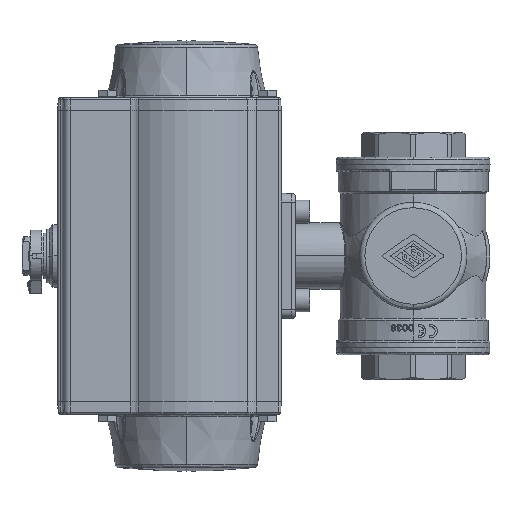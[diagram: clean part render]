
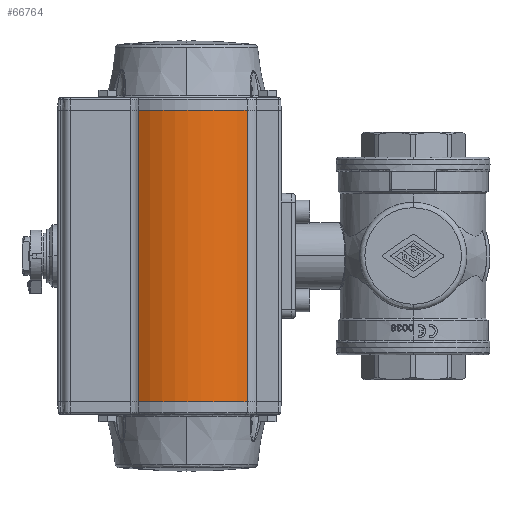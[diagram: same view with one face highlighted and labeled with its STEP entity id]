
A CAD part, left-side view. The second image highlights one B-rep face of the part: STEP entity #66764.
In plain terms, the highlighted cylindrical face has radius 47.5 mm (diameter 95 mm), a partial arc.
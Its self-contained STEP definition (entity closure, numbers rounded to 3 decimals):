
#328 = CARTESIAN_POINT ( 'NONE',  ( -39.046, 153.903, -81.5 ) ) ;
#7567 = CYLINDRICAL_SURFACE ( 'NONE', #104923, 47.5 ) ;
#16189 = CARTESIAN_POINT ( 'NONE',  ( -33.119, 92.805, 0. ) ) ;
#19315 = LINE ( 'NONE', #45328, #33996 ) ;
#24831 = DIRECTION ( 'NONE',  ( 0., 0., 1. ) ) ;
#25376 = DIRECTION ( 'NONE',  ( 1., 0., 0. ) ) ;
#26729 = DIRECTION ( 'NONE',  ( 0., 0., -1. ) ) ;
#29430 = CIRCLE ( 'NONE', #133840, 47.5 ) ;
#29638 = AXIS2_PLACEMENT_3D ( 'NONE', #106712, #44533, #117266 ) ;
#33370 = CARTESIAN_POINT ( 'NONE',  ( -33.119, 92.805, 81.5 ) ) ;
#33996 = VECTOR ( 'NONE', #24831, 1000. ) ;
#40792 = VERTEX_POINT ( 'NONE', #62175 ) ;
#41325 = DIRECTION ( 'NONE',  ( 0., 0., -1. ) ) ;
#44533 = DIRECTION ( 'NONE',  ( 0., 0., -1. ) ) ;
#45081 = FACE_OUTER_BOUND ( 'NONE', #54483, .T. ) ;
#45328 = CARTESIAN_POINT ( 'NONE',  ( -39.046, 153.903, 0. ) ) ;
#46431 = VECTOR ( 'NONE', #26729, 1000. ) ;
#48328 = EDGE_CURVE ( 'NONE', #40792, #110522, #29430, .T. ) ;
#49013 = ORIENTED_EDGE ( 'NONE', *, *, #68353, .F. ) ;
#50062 = CIRCLE ( 'NONE', #29638, 47.5 ) ;
#54483 = EDGE_LOOP ( 'NONE', ( #58783, #81147, #121038, #49013 ) ) ;
#58783 = ORIENTED_EDGE ( 'NONE', *, *, #109599, .T. ) ;
#62175 = CARTESIAN_POINT ( 'NONE',  ( -33.119, 92.805, -81.5 ) ) ;
#64996 = CARTESIAN_POINT ( 'NONE',  ( -39.046, 153.903, 81.5 ) ) ;
#66764 = ADVANCED_FACE ( 'NONE', ( #45081 ), #7567, .T. ) ;
#68353 = EDGE_CURVE ( 'NONE', #126392, #40792, #73990, .T. ) ;
#73990 = LINE ( 'NONE', #16189, #46431 ) ;
#81147 = ORIENTED_EDGE ( 'NONE', *, *, #112188, .F. ) ;
#87592 = CARTESIAN_POINT ( 'NONE',  ( 0., 126.854, -81.5 ) ) ;
#103533 = CARTESIAN_POINT ( 'NONE',  ( 0., 126.854, -81.5 ) ) ;
#104923 = AXIS2_PLACEMENT_3D ( 'NONE', #87592, #118581, #25376 ) ;
#106712 = CARTESIAN_POINT ( 'NONE',  ( 0., 126.854, 81.5 ) ) ;
#109599 = EDGE_CURVE ( 'NONE', #126392, #128243, #50062, .T. ) ;
#110522 = VERTEX_POINT ( 'NONE', #328 ) ;
#112188 = EDGE_CURVE ( 'NONE', #110522, #128243, #19315, .T. ) ;
#114065 = DIRECTION ( 'NONE',  ( 0., -1., 0. ) ) ;
#117266 = DIRECTION ( 'NONE',  ( -1., 0., 0. ) ) ;
#118581 = DIRECTION ( 'NONE',  ( 0., 0., 1. ) ) ;
#121038 = ORIENTED_EDGE ( 'NONE', *, *, #48328, .F. ) ;
#126392 = VERTEX_POINT ( 'NONE', #33370 ) ;
#128243 = VERTEX_POINT ( 'NONE', #64996 ) ;
#133840 = AXIS2_PLACEMENT_3D ( 'NONE', #103533, #41325, #114065 ) ;
